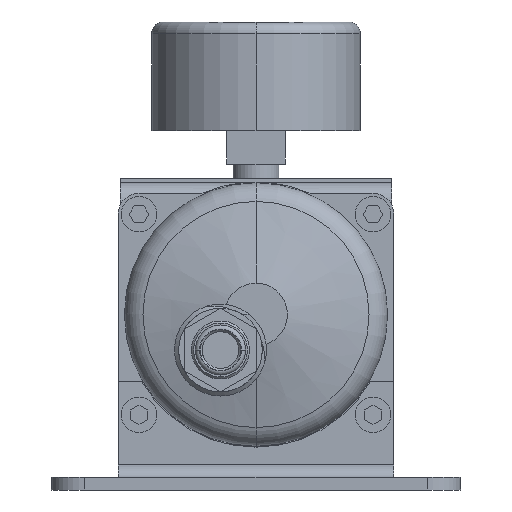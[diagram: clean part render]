
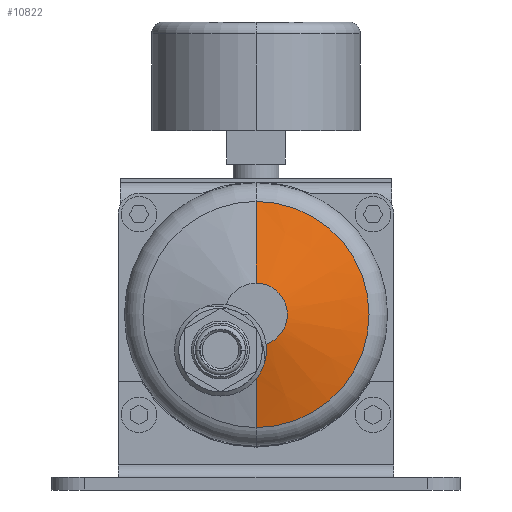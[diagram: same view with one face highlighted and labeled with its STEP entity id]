
A CAD part, front view. The second image highlights one B-rep face of the part: STEP entity #10822.
In plain terms, the highlighted conical face has half-angle 75 degrees and reference radius 17.276 mm.
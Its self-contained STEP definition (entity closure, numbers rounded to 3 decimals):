
#9139=DIRECTION('',(-0.966,0.259,0.));
#9140=VECTOR('',#9139,11.98);
#9141=CARTESIAN_POINT('',(-15.481,-91.362,
0.));
#9142=LINE('3655',#9141,#9140);
#9143=DIRECTION('',(0.966,0.259,0.));
#9144=VECTOR('',#9143,20.243);
#9145=CARTESIAN_POINT('',(7.5,-93.5,0.));
#9146=LINE('355',#9145,#9144);
#9168=CARTESIAN_POINT('',(-15.481,-91.362,
0.));
#9169=CARTESIAN_POINT('',(-15.327,-91.403,
-0.126));
#9170=CARTESIAN_POINT('',(-15.014,-91.486,
-0.369));
#9171=CARTESIAN_POINT('',(-14.525,-91.614,
-0.708));
#9172=CARTESIAN_POINT('',(-14.017,-91.744,
-1.02));
#9173=CARTESIAN_POINT('',(-13.493,-91.878,
-1.304));
#9174=CARTESIAN_POINT('',(-12.954,-92.014,
-1.56));
#9175=CARTESIAN_POINT('',(-12.402,-92.152,
-1.786));
#9176=CARTESIAN_POINT('',(-11.838,-92.294,
-1.983));
#9177=CARTESIAN_POINT('',(-11.264,-92.437,
-2.148));
#9178=CARTESIAN_POINT('',(-10.681,-92.583,
-2.282));
#9179=CARTESIAN_POINT('',(-10.091,-92.731,
-2.384));
#9180=CARTESIAN_POINT('',(-9.497,-92.882,
-2.454));
#9181=CARTESIAN_POINT('',(-8.899,-93.034,
-2.492));
#9182=CARTESIAN_POINT('',(-8.3,-93.187,
-2.497));
#9183=CARTESIAN_POINT('',(-7.701,-93.343,
-2.469));
#9184=CARTESIAN_POINT('',(-7.303,-93.447,
-2.429));
#9185=CARTESIAN_POINT('',(-7.104,-93.5,-2.404));
#9187=CARTESIAN_POINT('',(0.,-93.5,0.));
#9188=DIRECTION('',(0.,1.,0.));
#9189=DIRECTION('',(1.,0.,0.));
#9190=AXIS2_PLACEMENT_3D('',#9187,#9188,#9189);
#9192=CARTESIAN_POINT('',(0.,-88.261,0.));
#9193=DIRECTION('',(0.,1.,0.));
#9194=DIRECTION('',(1.,0.,0.));
#9195=AXIS2_PLACEMENT_3D('',#9192,#9193,#9194);
#9371=CARTESIAN_POINT('',(7.5,-93.5,0.));
#9372=CARTESIAN_POINT('',(27.053,-88.261,0.));
#9373=VERTEX_POINT('',#9371);
#9374=VERTEX_POINT('',#9372);
#9377=CARTESIAN_POINT('',(-27.053,-88.261,0.));
#9379=VERTEX_POINT('',#9377);
#9591=CARTESIAN_POINT('',(-7.104,-93.5,-2.404));
#9593=VERTEX_POINT('',#9591);
#9595=VERTEX_POINT('',#9168);
#10809=CARTESIAN_POINT('',(0.,-90.88,0.));
#10810=DIRECTION('',(0.,1.,0.));
#10811=DIRECTION('',(1.,0.,0.));
#10812=AXIS2_PLACEMENT_3D('',#10809,#10810,#10811);
#10813=CONICAL_SURFACE('369',#10812,17.276,75.);
#10814=ORIENTED_EDGE('3647',*,*,#10782,.T.);
#10815=ORIENTED_EDGE('3656',*,*,#10804,.F.);
#10816=ORIENTED_EDGE('355',*,*,#10766,.T.);
#10818=ORIENTED_EDGE('372',*,*,#10817,.T.);
#10819=ORIENTED_EDGE('3655',*,*,#10762,.F.);
#10820=EDGE_LOOP('369',(#10814,#10815,#10816,#10818,#10819));
#10821=FACE_OUTER_BOUND('369',#10820,.F.);
#10822=ADVANCED_FACE('369',(#10821),#10813,.T.);
#9186=B_SPLINE_CURVE_WITH_KNOTS('3647',3,(#9168,#9169,#9170,#9171,#9172,#9173,
#9174,#9175,#9176,#9177,#9178,#9179,#9180,#9181,#9182,#9183,#9184,#9185),
.UNSPECIFIED.,.F.,.F.,(4,1,1,1,1,1,1,1,1,1,1,1,1,1,1,4),(0.,0.067,
0.133,0.2,0.267,0.333,0.4,
0.467,0.533,0.6,0.667,0.733,
0.8,0.867,0.933,1.),.UNSPECIFIED.);
#9191=CIRCLE('3656',#9190,7.5);
#9196=CIRCLE('372',#9195,27.053);
#10762=EDGE_CURVE('3655',#9595,#9379,#9142,.T.);
#10766=EDGE_CURVE('355',#9373,#9374,#9146,.T.);
#10782=EDGE_CURVE('3647',#9595,#9593,#9186,.T.);
#10804=EDGE_CURVE('3656',#9373,#9593,#9191,.T.);
#10817=EDGE_CURVE('372',#9374,#9379,#9196,.T.);
